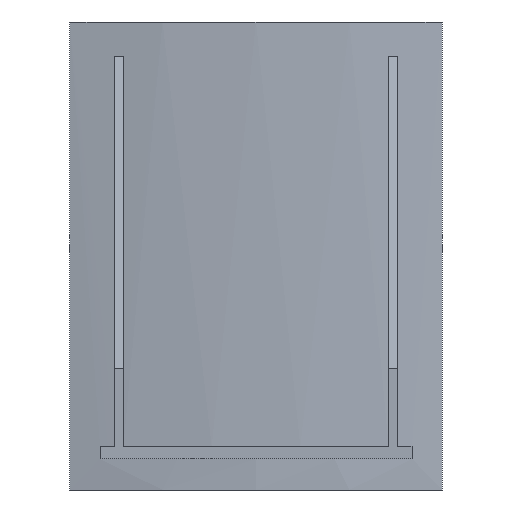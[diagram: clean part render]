
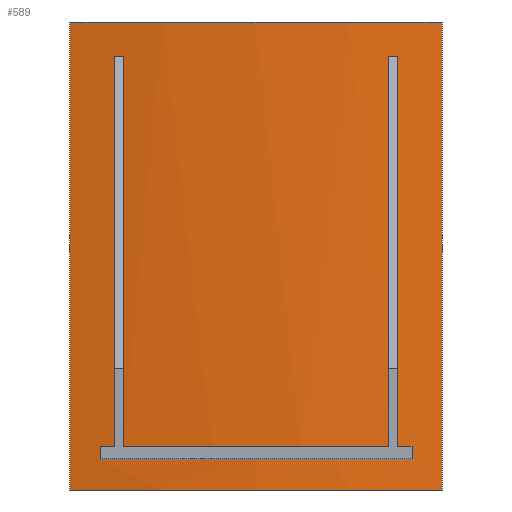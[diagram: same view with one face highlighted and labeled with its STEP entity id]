
A CAD part, left-side view. The second image highlights one B-rep face of the part: STEP entity #589.
In plain terms, the highlighted cylindrical face has radius 1288 mm (diameter 2576 mm), a partial arc.
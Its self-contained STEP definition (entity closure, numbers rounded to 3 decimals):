
#19=FACE_BOUND('',#103,.T.);
#28=CIRCLE('',#643,1288.);
#29=CIRCLE('',#645,1288.);
#30=CIRCLE('',#647,1288.);
#31=CIRCLE('',#651,1288.);
#32=CIRCLE('',#653,1288.);
#33=CIRCLE('',#654,1288.);
#40=CYLINDRICAL_SURFACE('',#652,1288.);
#67=FACE_OUTER_BOUND('',#102,.T.);
#102=EDGE_LOOP('',(#505,#506,#507,#508));
#103=EDGE_LOOP('',(#509,#510,#511,#512,#513,#514,#515,#516,#517,#518));
#162=LINE('',#955,#228);
#164=LINE('',#959,#230);
#165=LINE('',#967,#231);
#166=LINE('',#970,#232);
#167=LINE('',#971,#233);
#168=LINE('',#972,#234);
#228=VECTOR('',#785,10.);
#230=VECTOR('',#789,10.);
#231=VECTOR('',#798,10.);
#232=VECTOR('',#801,10.);
#233=VECTOR('',#802,10.);
#234=VECTOR('',#803,10.);
#269=VERTEX_POINT('',#902);
#270=VERTEX_POINT('',#904);
#277=VERTEX_POINT('',#923);
#278=VERTEX_POINT('',#925);
#281=VERTEX_POINT('',#943);
#282=VERTEX_POINT('',#947);
#283=VERTEX_POINT('',#953);
#284=VERTEX_POINT('',#957);
#285=VERTEX_POINT('',#963);
#286=VERTEX_POINT('',#964);
#287=VERTEX_POINT('',#966);
#288=VERTEX_POINT('',#968);
#351=EDGE_CURVE('',#281,#269,#28,.T.);
#354=EDGE_CURVE('',#277,#282,#29,.T.);
#355=EDGE_CURVE('',#269,#277,#30,.T.);
#357=EDGE_CURVE('',#283,#281,#162,.T.);
#359=EDGE_CURVE('',#282,#284,#164,.T.);
#360=EDGE_CURVE('',#284,#283,#31,.T.);
#361=EDGE_CURVE('',#285,#286,#32,.T.);
#362=EDGE_CURVE('',#286,#287,#165,.T.);
#363=EDGE_CURVE('',#288,#287,#33,.T.);
#364=EDGE_CURVE('',#285,#288,#166,.T.);
#365=EDGE_CURVE('',#270,#269,#167,.T.);
#366=EDGE_CURVE('',#278,#277,#168,.T.);
#505=ORIENTED_EDGE('',*,*,#361,.T.);
#506=ORIENTED_EDGE('',*,*,#362,.T.);
#507=ORIENTED_EDGE('',*,*,#363,.F.);
#508=ORIENTED_EDGE('',*,*,#364,.F.);
#509=ORIENTED_EDGE('',*,*,#359,.T.);
#510=ORIENTED_EDGE('',*,*,#360,.T.);
#511=ORIENTED_EDGE('',*,*,#357,.T.);
#512=ORIENTED_EDGE('',*,*,#351,.T.);
#513=ORIENTED_EDGE('',*,*,#365,.F.);
#514=ORIENTED_EDGE('',*,*,#365,.T.);
#515=ORIENTED_EDGE('',*,*,#355,.T.);
#516=ORIENTED_EDGE('',*,*,#366,.F.);
#517=ORIENTED_EDGE('',*,*,#366,.T.);
#518=ORIENTED_EDGE('',*,*,#354,.T.);
#589=ADVANCED_FACE('',(#67,#19),#40,.T.);
#643=AXIS2_PLACEMENT_3D('',#944,#770,#771);
#645=AXIS2_PLACEMENT_3D('',#949,#776,#777);
#647=AXIS2_PLACEMENT_3D('',#951,#780,#781);
#651=AXIS2_PLACEMENT_3D('',#961,#792,#793);
#652=AXIS2_PLACEMENT_3D('',#962,#794,#795);
#653=AXIS2_PLACEMENT_3D('',#965,#796,#797);
#654=AXIS2_PLACEMENT_3D('',#969,#799,#800);
#770=DIRECTION('center_axis',(0.,0.,1.));
#771=DIRECTION('ref_axis',(-0.983,0.185,0.));
#776=DIRECTION('center_axis',(0.,0.,1.));
#777=DIRECTION('ref_axis',(-0.983,0.185,0.));
#780=DIRECTION('center_axis',(0.,0.,1.));
#781=DIRECTION('ref_axis',(-0.983,0.185,0.));
#785=DIRECTION('',(0.,0.,1.));
#789=DIRECTION('',(0.,0.,-1.));
#792=DIRECTION('center_axis',(0.,0.,-1.));
#793=DIRECTION('ref_axis',(-0.983,0.185,0.));
#794=DIRECTION('center_axis',(0.,0.,1.));
#795=DIRECTION('ref_axis',(-0.983,0.185,0.));
#796=DIRECTION('center_axis',(0.,0.,1.));
#797=DIRECTION('ref_axis',(-0.983,0.185,0.));
#798=DIRECTION('',(0.,0.,1.));
#799=DIRECTION('center_axis',(0.,0.,1.));
#800=DIRECTION('ref_axis',(-0.983,0.185,0.));
#801=DIRECTION('',(0.,0.,1.));
#802=DIRECTION('',(0.,0.,-1.));
#803=DIRECTION('',(0.,0.,-1.));
#902=CARTESIAN_POINT('',(-1276.732,170.,56.));
#904=CARTESIAN_POINT('',(-1276.732,170.,556.));
#923=CARTESIAN_POINT('',(-1276.732,-170.,56.));
#925=CARTESIAN_POINT('',(-1276.732,-170.,556.));
#943=CARTESIAN_POINT('',(-1272.377,200.,56.));
#944=CARTESIAN_POINT('Origin',(0.,0.,56.));
#947=CARTESIAN_POINT('',(-1272.377,-200.,56.));
#949=CARTESIAN_POINT('Origin',(0.,0.,56.));
#951=CARTESIAN_POINT('Origin',(0.,0.,56.));
#953=CARTESIAN_POINT('',(-1272.377,200.,40.));
#955=CARTESIAN_POINT('',(-1272.377,200.,0.));
#957=CARTESIAN_POINT('',(-1272.377,-200.,40.));
#959=CARTESIAN_POINT('',(-1272.377,-200.,0.));
#961=CARTESIAN_POINT('Origin',(0.,0.,40.));
#962=CARTESIAN_POINT('Origin',(0.,0.,0.));
#963=CARTESIAN_POINT('',(-1265.704,238.614,0.));
#964=CARTESIAN_POINT('',(-1265.704,-238.614,0.));
#965=CARTESIAN_POINT('Origin',(0.,0.,0.));
#966=CARTESIAN_POINT('',(-1265.704,-238.614,600.));
#967=CARTESIAN_POINT('',(-1265.704,-238.614,0.));
#968=CARTESIAN_POINT('',(-1265.704,238.614,600.));
#969=CARTESIAN_POINT('Origin',(0.,0.,600.));
#970=CARTESIAN_POINT('',(-1265.704,238.614,0.));
#971=CARTESIAN_POINT('',(-1276.732,170.,0.));
#972=CARTESIAN_POINT('',(-1276.732,-170.,0.));
